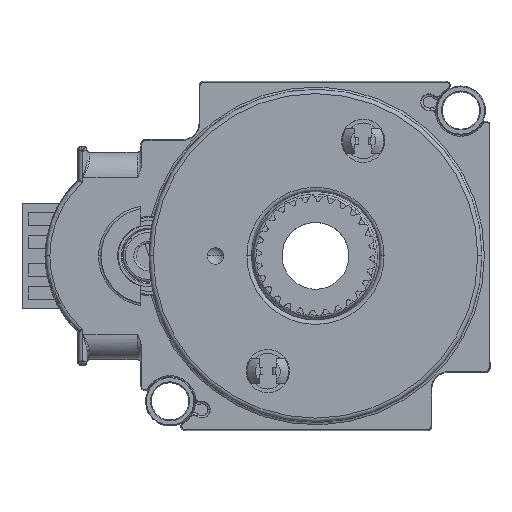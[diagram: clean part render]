
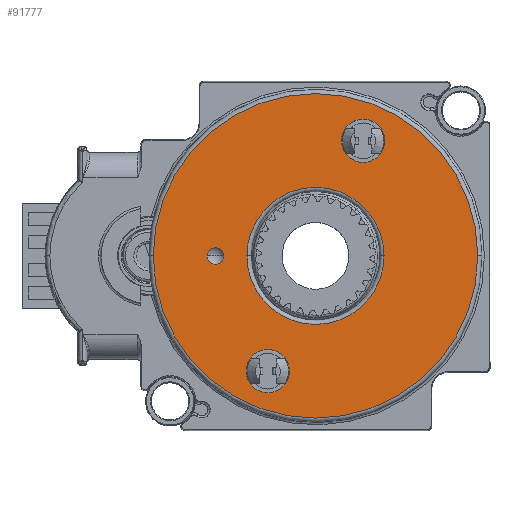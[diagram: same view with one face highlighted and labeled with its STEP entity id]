
A CAD part, top view. The second image highlights one B-rep face of the part: STEP entity #91777.
In plain terms, the highlighted planar face has unit normal (0, 0, 1).
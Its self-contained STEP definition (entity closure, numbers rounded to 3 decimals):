
#1459 = CARTESIAN_POINT ( 'NONE',  ( 0., 0., 4.25 ) ) ;
#2668 = AXIS2_PLACEMENT_3D ( 'NONE', #81499, #131337, #71678 ) ;
#2919 = DIRECTION ( 'NONE',  ( 0., 0., 1. ) ) ;
#3829 = CARTESIAN_POINT ( 'NONE',  ( 0., 0., 4.25 ) ) ;
#4375 = CIRCLE ( 'NONE', #44156, 2.6 ) ;
#9150 = VERTEX_POINT ( 'NONE', #39617 ) ;
#10235 = AXIS2_PLACEMENT_3D ( 'NONE', #19327, #91171, #122213 ) ;
#10714 = ORIENTED_EDGE ( 'NONE', *, *, #33166, .T. ) ;
#11978 = CARTESIAN_POINT ( 'NONE',  ( 5.74, 13.858, 4.25 ) ) ;
#14200 = DIRECTION ( 'NONE',  ( 1., 0., 0. ) ) ;
#16129 = EDGE_LOOP ( 'NONE', ( #79732, #101450 ) ) ;
#16156 = VERTEX_POINT ( 'NONE', #92895 ) ;
#17515 = CIRCLE ( 'NONE', #87662, 2.6 ) ;
#18540 = EDGE_CURVE ( 'NONE', #101264, #106662, #60094, .T. ) ;
#19327 = CARTESIAN_POINT ( 'NONE',  ( -12.031, 0., 4.25 ) ) ;
#19983 = EDGE_CURVE ( 'NONE', #9150, #59438, #83893, .T. ) ;
#20367 = VERTEX_POINT ( 'NONE', #66253 ) ;
#21227 = FACE_BOUND ( 'NONE', #102433, .T. ) ;
#24984 = CIRCLE ( 'NONE', #125696, 1. ) ;
#25670 = ORIENTED_EDGE ( 'NONE', *, *, #97884, .F. ) ;
#26930 = CARTESIAN_POINT ( 'NONE',  ( -5.74, -13.858, 4.25 ) ) ;
#31756 = CARTESIAN_POINT ( 'NONE',  ( -11.031, 0., 4.25 ) ) ;
#31868 = CARTESIAN_POINT ( 'NONE',  ( -12.031, 0., 4.25 ) ) ;
#33166 = EDGE_CURVE ( 'NONE', #20367, #78483, #94182, .T. ) ;
#33932 = DIRECTION ( 'NONE',  ( 0., 0., -1. ) ) ;
#36123 = PLANE ( 'NONE',  #103887 ) ;
#39617 = CARTESIAN_POINT ( 'NONE',  ( 8.34, 13.858, 4.25 ) ) ;
#42236 = DIRECTION ( 'NONE',  ( 1., 0., 0. ) ) ;
#42673 = DIRECTION ( 'NONE',  ( 0., 0., -1. ) ) ;
#44156 = AXIS2_PLACEMENT_3D ( 'NONE', #11978, #63223, #125125 ) ;
#46089 = CARTESIAN_POINT ( 'NONE',  ( 0., 0., 4.25 ) ) ;
#47390 = AXIS2_PLACEMENT_3D ( 'NONE', #1459, #124906, #42236 ) ;
#47655 = CARTESIAN_POINT ( 'NONE',  ( -3.14, -13.858, 4.25 ) ) ;
#54584 = DIRECTION ( 'NONE',  ( 1., 0., 0. ) ) ;
#56116 = CARTESIAN_POINT ( 'NONE',  ( 19.525, 0., 4.25 ) ) ;
#56448 = CARTESIAN_POINT ( 'NONE',  ( 0., 0., 4.25 ) ) ;
#58088 = DIRECTION ( 'NONE',  ( 0., 0., 1. ) ) ;
#58311 = EDGE_CURVE ( 'NONE', #112402, #79011, #101149, .T. ) ;
#58651 = EDGE_CURVE ( 'NONE', #74769, #16156, #128423, .T. ) ;
#59438 = VERTEX_POINT ( 'NONE', #61209 ) ;
#59586 = EDGE_CURVE ( 'NONE', #106662, #101264, #72045, .T. ) ;
#60094 = CIRCLE ( 'NONE', #125559, 19.525 ) ;
#60383 = ORIENTED_EDGE ( 'NONE', *, *, #59586, .T. ) ;
#61209 = CARTESIAN_POINT ( 'NONE',  ( 3.14, 13.858, 4.25 ) ) ;
#63223 = DIRECTION ( 'NONE',  ( 0., 0., 1. ) ) ;
#63826 = EDGE_LOOP ( 'NONE', ( #60383, #74743 ) ) ;
#66253 = CARTESIAN_POINT ( 'NONE',  ( -8.25, 0., 4.25 ) ) ;
#66343 = DIRECTION ( 'NONE',  ( 0., 0., -1. ) ) ;
#66788 = DIRECTION ( 'NONE',  ( 1., 0., 0. ) ) ;
#67214 = DIRECTION ( 'NONE',  ( 1., 0., 0. ) ) ;
#71678 = DIRECTION ( 'NONE',  ( 1., 0., 0. ) ) ;
#72045 = CIRCLE ( 'NONE', #47390, 19.525 ) ;
#72103 = ORIENTED_EDGE ( 'NONE', *, *, #83761, .T. ) ;
#73268 = ORIENTED_EDGE ( 'NONE', *, *, #58651, .F. ) ;
#74743 = ORIENTED_EDGE ( 'NONE', *, *, #18540, .T. ) ;
#74769 = VERTEX_POINT ( 'NONE', #47655 ) ;
#76525 = AXIS2_PLACEMENT_3D ( 'NONE', #105636, #2919, #85044 ) ;
#77474 = FACE_BOUND ( 'NONE', #16129, .T. ) ;
#78483 = VERTEX_POINT ( 'NONE', #130492 ) ;
#78629 = CARTESIAN_POINT ( 'NONE',  ( -19.525, 0., 4.25 ) ) ;
#79011 = VERTEX_POINT ( 'NONE', #31756 ) ;
#79732 = ORIENTED_EDGE ( 'NONE', *, *, #128602, .T. ) ;
#81499 = CARTESIAN_POINT ( 'NONE',  ( 5.74, 13.858, 4.25 ) ) ;
#83108 = DIRECTION ( 'NONE',  ( -1., 0., 0. ) ) ;
#83761 = EDGE_CURVE ( 'NONE', #78483, #20367, #93845, .T. ) ;
#83893 = CIRCLE ( 'NONE', #2668, 2.6 ) ;
#85044 = DIRECTION ( 'NONE',  ( 1., 0., 0. ) ) ;
#87662 = AXIS2_PLACEMENT_3D ( 'NONE', #26930, #58088, #110929 ) ;
#91171 = DIRECTION ( 'NONE',  ( 0., 0., -1. ) ) ;
#91777 = ADVANCED_FACE ( 'NONE', ( #77474, #109633, #101490, #130533, #21227 ), #36123, .T. ) ;
#92895 = CARTESIAN_POINT ( 'NONE',  ( -8.34, -13.858, 4.25 ) ) ;
#93845 = CIRCLE ( 'NONE', #118709, 8.25 ) ;
#94182 = CIRCLE ( 'NONE', #99315, 8.25 ) ;
#97884 = EDGE_CURVE ( 'NONE', #59438, #9150, #4375, .T. ) ;
#99315 = AXIS2_PLACEMENT_3D ( 'NONE', #116595, #33932, #14200 ) ;
#99423 = CARTESIAN_POINT ( 'NONE',  ( -13.031, 0., 4.25 ) ) ;
#100394 = EDGE_LOOP ( 'NONE', ( #105440, #25670 ) ) ;
#101149 = CIRCLE ( 'NONE', #10235, 1. ) ;
#101264 = VERTEX_POINT ( 'NONE', #78629 ) ;
#101450 = ORIENTED_EDGE ( 'NONE', *, *, #58311, .T. ) ;
#101490 = FACE_BOUND ( 'NONE', #119798, .T. ) ;
#102433 = EDGE_LOOP ( 'NONE', ( #73268, #112262 ) ) ;
#103887 = AXIS2_PLACEMENT_3D ( 'NONE', #56448, #118785, #66788 ) ;
#105440 = ORIENTED_EDGE ( 'NONE', *, *, #19983, .F. ) ;
#105636 = CARTESIAN_POINT ( 'NONE',  ( -5.74, -13.858, 4.25 ) ) ;
#106662 = VERTEX_POINT ( 'NONE', #56116 ) ;
#109633 = FACE_OUTER_BOUND ( 'NONE', #63826, .T. ) ;
#110929 = DIRECTION ( 'NONE',  ( 1., 0., 0. ) ) ;
#112262 = ORIENTED_EDGE ( 'NONE', *, *, #115069, .F. ) ;
#112402 = VERTEX_POINT ( 'NONE', #99423 ) ;
#115069 = EDGE_CURVE ( 'NONE', #16156, #74769, #17515, .T. ) ;
#116595 = CARTESIAN_POINT ( 'NONE',  ( 0., 0., 4.25 ) ) ;
#118709 = AXIS2_PLACEMENT_3D ( 'NONE', #46089, #66343, #67214 ) ;
#118785 = DIRECTION ( 'NONE',  ( 0., 0., 1. ) ) ;
#119798 = EDGE_LOOP ( 'NONE', ( #72103, #10714 ) ) ;
#122213 = DIRECTION ( 'NONE',  ( -1., 0., 0. ) ) ;
#124906 = DIRECTION ( 'NONE',  ( 0., 0., 1. ) ) ;
#125125 = DIRECTION ( 'NONE',  ( 1., 0., 0. ) ) ;
#125502 = DIRECTION ( 'NONE',  ( 0., 0., 1. ) ) ;
#125559 = AXIS2_PLACEMENT_3D ( 'NONE', #3829, #125502, #54584 ) ;
#125696 = AXIS2_PLACEMENT_3D ( 'NONE', #31868, #42673, #83108 ) ;
#128423 = CIRCLE ( 'NONE', #76525, 2.6 ) ;
#128602 = EDGE_CURVE ( 'NONE', #79011, #112402, #24984, .T. ) ;
#130492 = CARTESIAN_POINT ( 'NONE',  ( 8.25, 0., 4.25 ) ) ;
#130533 = FACE_BOUND ( 'NONE', #100394, .T. ) ;
#131337 = DIRECTION ( 'NONE',  ( 0., 0., 1. ) ) ;
